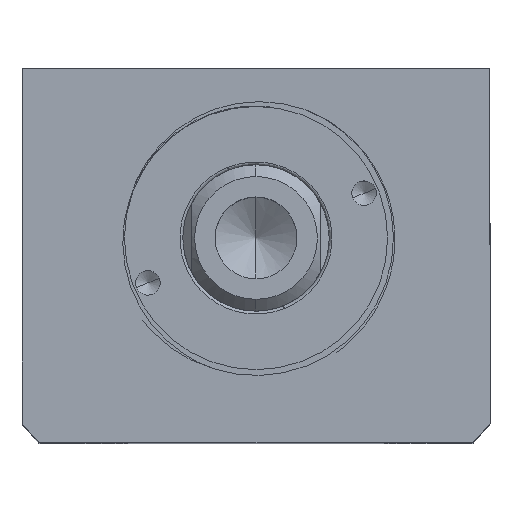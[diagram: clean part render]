
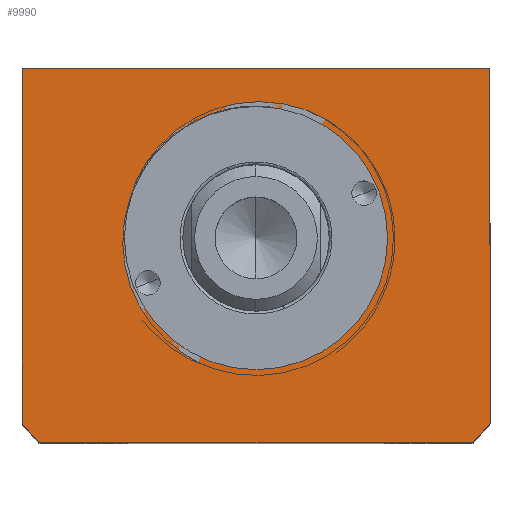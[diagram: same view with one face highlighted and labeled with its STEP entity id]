
A CAD part, top view. The second image highlights one B-rep face of the part: STEP entity #9990.
In plain terms, the highlighted planar face has unit normal (0, 0, 1).
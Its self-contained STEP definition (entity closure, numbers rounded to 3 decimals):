
#74 = CARTESIAN_POINT ( 'NONE',  ( -22.5, -40.507, 80. ) ) ;
#323 = EDGE_CURVE ( 'NONE', #5248, #4924, #6139, .T. ) ;
#507 = CARTESIAN_POINT ( 'NONE',  ( -40., -11.507, 80. ) ) ;
#721 = EDGE_CURVE ( 'NONE', #9279, #9933, #4391, .T. ) ;
#1265 = CARTESIAN_POINT ( 'NONE',  ( -40., -11.507, 80. ) ) ;
#1451 = VERTEX_POINT ( 'NONE', #507 ) ;
#1550 = VECTOR ( 'NONE', #3667, 1000. ) ;
#2318 = VECTOR ( 'NONE', #7620, 1000. ) ;
#2580 = DIRECTION ( 'NONE',  ( 0., 0., 1. ) ) ;
#2609 = CARTESIAN_POINT ( 'NONE',  ( 0., 0., 80. ) ) ;
#2647 = VECTOR ( 'NONE', #8515, 1000. ) ;
#2884 = CARTESIAN_POINT ( 'NONE',  ( 40., -11.507, 80. ) ) ;
#3065 = EDGE_CURVE ( 'NONE', #1451, #4281, #4927, .T. ) ;
#3093 = EDGE_LOOP ( 'NONE', ( #7693, #7803 ) ) ;
#3299 = DIRECTION ( 'NONE',  ( 0., 0., 1. ) ) ;
#3385 = CARTESIAN_POINT ( 'NONE',  ( 40., -11.507, 80. ) ) ;
#3406 = PLANE ( 'NONE',  #7871 ) ;
#3569 = ORIENTED_EDGE ( 'NONE', *, *, #5015, .T. ) ;
#3584 = FACE_BOUND ( 'NONE', #3093, .T. ) ;
#3667 = DIRECTION ( 'NONE',  ( 0., 1., 0. ) ) ;
#3936 = VERTEX_POINT ( 'NONE', #3385 ) ;
#4144 = EDGE_CURVE ( 'NONE', #4281, #9279, #9187, .T. ) ;
#4178 = CARTESIAN_POINT ( 'NONE',  ( 0., -40.507, 80. ) ) ;
#4189 = DIRECTION ( 'NONE',  ( 1., 0., 0. ) ) ;
#4281 = VERTEX_POINT ( 'NONE', #6400 ) ;
#4391 = LINE ( 'NONE', #7714, #2318 ) ;
#4405 = DIRECTION ( 'NONE',  ( 0., -1., 0. ) ) ;
#4667 = DIRECTION ( 'NONE',  ( 0., 0., 1. ) ) ;
#4736 = ORIENTED_EDGE ( 'NONE', *, *, #3065, .T. ) ;
#4924 = VERTEX_POINT ( 'NONE', #74 ) ;
#4927 = LINE ( 'NONE', #1265, #6768 ) ;
#4980 = DIRECTION ( 'NONE',  ( 1., 0., 0. ) ) ;
#5015 = EDGE_CURVE ( 'NONE', #9933, #8320, #9900, .T. ) ;
#5157 = EDGE_CURVE ( 'NONE', #8320, #3936, #5750, .T. ) ;
#5222 = AXIS2_PLACEMENT_3D ( 'NONE', #4178, #9653, #4980 ) ;
#5248 = VERTEX_POINT ( 'NONE', #8433 ) ;
#5441 = FACE_OUTER_BOUND ( 'NONE', #9681, .T. ) ;
#5714 = CARTESIAN_POINT ( 'NONE',  ( 37.094, -75.507, 80. ) ) ;
#5750 = LINE ( 'NONE', #2884, #1550 ) ;
#5768 = ORIENTED_EDGE ( 'NONE', *, *, #721, .T. ) ;
#5920 = CARTESIAN_POINT ( 'NONE',  ( 40., -72.145, 80. ) ) ;
#6139 = CIRCLE ( 'NONE', #7059, 22.5 ) ;
#6154 = CARTESIAN_POINT ( 'NONE',  ( -40., -11.507, 80. ) ) ;
#6393 = EDGE_CURVE ( 'NONE', #3936, #1451, #9157, .T. ) ;
#6400 = CARTESIAN_POINT ( 'NONE',  ( -40., -72.145, 80. ) ) ;
#6627 = ORIENTED_EDGE ( 'NONE', *, *, #4144, .T. ) ;
#6768 = VECTOR ( 'NONE', #4405, 1000. ) ;
#6865 = CARTESIAN_POINT ( 'NONE',  ( -37.094, -75.507, 80. ) ) ;
#6998 = CARTESIAN_POINT ( 'NONE',  ( 0., -40.507, 80. ) ) ;
#7059 = AXIS2_PLACEMENT_3D ( 'NONE', #6998, #7062, #7088 ) ;
#7062 = DIRECTION ( 'NONE',  ( 0., 0., 1. ) ) ;
#7088 = DIRECTION ( 'NONE',  ( 1., 0., 0. ) ) ;
#7202 = AXIS2_PLACEMENT_3D ( 'NONE', #8010, #3299, #8771 ) ;
#7520 = EDGE_CURVE ( 'NONE', #4924, #5248, #7577, .T. ) ;
#7577 = CIRCLE ( 'NONE', #7202, 22.5 ) ;
#7620 = DIRECTION ( 'NONE',  ( 1., 0., 0. ) ) ;
#7693 = ORIENTED_EDGE ( 'NONE', *, *, #323, .F. ) ;
#7714 = CARTESIAN_POINT ( 'NONE',  ( -40., -75.507, 80. ) ) ;
#7803 = ORIENTED_EDGE ( 'NONE', *, *, #7520, .F. ) ;
#7871 = AXIS2_PLACEMENT_3D ( 'NONE', #2609, #2580, #4189 ) ;
#8010 = CARTESIAN_POINT ( 'NONE',  ( 0., -40.507, 80. ) ) ;
#8320 = VERTEX_POINT ( 'NONE', #5920 ) ;
#8433 = CARTESIAN_POINT ( 'NONE',  ( 22.5, -40.507, 80. ) ) ;
#8515 = DIRECTION ( 'NONE',  ( -1., 0., 0. ) ) ;
#8600 = ORIENTED_EDGE ( 'NONE', *, *, #5157, .T. ) ;
#8771 = DIRECTION ( 'NONE',  ( 1., 0., 0. ) ) ;
#8958 = ORIENTED_EDGE ( 'NONE', *, *, #6393, .T. ) ;
#9157 = LINE ( 'NONE', #6154, #2647 ) ;
#9187 = CIRCLE ( 'NONE', #9793, 51. ) ;
#9279 = VERTEX_POINT ( 'NONE', #6865 ) ;
#9344 = CARTESIAN_POINT ( 'NONE',  ( 0., -40.507, 80. ) ) ;
#9653 = DIRECTION ( 'NONE',  ( 0., 0., 1. ) ) ;
#9681 = EDGE_LOOP ( 'NONE', ( #4736, #6627, #5768, #3569, #8600, #8958 ) ) ;
#9793 = AXIS2_PLACEMENT_3D ( 'NONE', #9344, #4667, #10130 ) ;
#9900 = CIRCLE ( 'NONE', #5222, 51. ) ;
#9933 = VERTEX_POINT ( 'NONE', #5714 ) ;
#9990 = ADVANCED_FACE ( 'NONE', ( #3584, #5441 ), #3406, .T. ) ;
#10130 = DIRECTION ( 'NONE',  ( 1., 0., 0. ) ) ;
